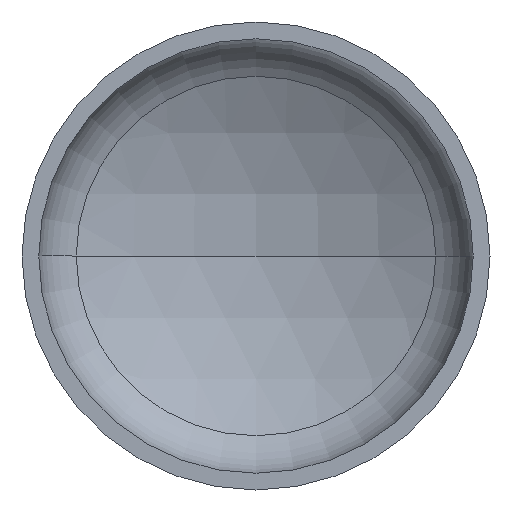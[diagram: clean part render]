
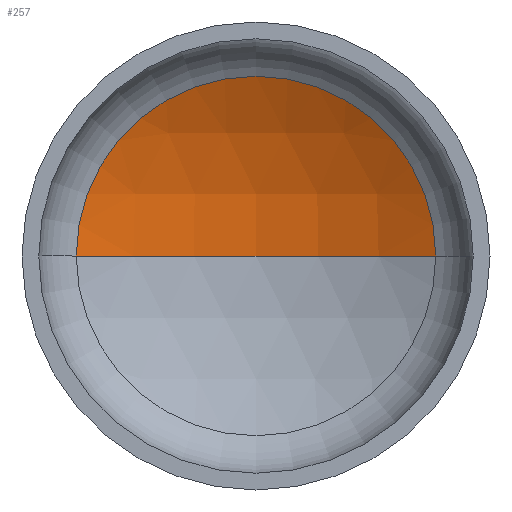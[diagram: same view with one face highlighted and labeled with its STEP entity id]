
A CAD part, front view. The second image highlights one B-rep face of the part: STEP entity #257.
In plain terms, the highlighted spherical face has radius 960 mm.
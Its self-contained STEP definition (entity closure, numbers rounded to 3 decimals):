
#1 = DIRECTION ( 'NONE',  ( 0., 0., -1. ) ) ;
#5 = DIRECTION ( 'NONE',  ( 0., 0., 1. ) ) ;
#8 = CARTESIAN_POINT ( 'NONE',  ( 0., -549.883, 0. ) ) ;
#15 = VERTEX_POINT ( 'NONE', #291 ) ;
#21 = AXIS2_PLACEMENT_3D ( 'NONE', #65, #43, #190 ) ;
#27 = EDGE_LOOP ( 'NONE', ( #109, #103, #53 ) ) ;
#40 = AXIS2_PLACEMENT_3D ( 'NONE', #8, #5, #369 ) ;
#41 = AXIS2_PLACEMENT_3D ( 'NONE', #373, #1, #108 ) ;
#42 = AXIS2_PLACEMENT_3D ( 'NONE', #194, #195, #198 ) ;
#43 = DIRECTION ( 'NONE',  ( 0., 0., -1. ) ) ;
#44 = VERTEX_POINT ( 'NONE', #286 ) ;
#48 = VERTEX_POINT ( 'NONE', #228 ) ;
#53 = ORIENTED_EDGE ( 'NONE', *, *, #85, .T. ) ;
#65 = CARTESIAN_POINT ( 'NONE',  ( 0., -549.883, 0. ) ) ;
#85 = EDGE_CURVE ( 'NONE', #15, #48, #401, .T. ) ;
#87 = EDGE_CURVE ( 'NONE', #44, #15, #339, .T. ) ;
#90 = EDGE_CURVE ( 'NONE', #44, #48, #212, .T. ) ;
#103 = ORIENTED_EDGE ( 'NONE', *, *, #87, .T. ) ;
#108 = DIRECTION ( 'NONE',  ( -1., 0., 0. ) ) ;
#109 = ORIENTED_EDGE ( 'NONE', *, *, #90, .F. ) ;
#190 = DIRECTION ( 'NONE',  ( -1., 0., 0. ) ) ;
#194 = CARTESIAN_POINT ( 'NONE',  ( 0., 292.295, 0. ) ) ;
#195 = DIRECTION ( 'NONE',  ( 0., -1., 0. ) ) ;
#198 = DIRECTION ( 'NONE',  ( 1., 0., 0. ) ) ;
#212 = CIRCLE ( 'NONE', #40, 960. ) ;
#228 = CARTESIAN_POINT ( 'NONE',  ( -460.8, 292.295, 0. ) ) ;
#257 = ADVANCED_FACE ( 'NONE', ( #320 ), #312, .F. ) ;
#286 = CARTESIAN_POINT ( 'NONE',  ( 0., 410.117, 0. ) ) ;
#291 = CARTESIAN_POINT ( 'NONE',  ( 460.8, 292.295, 0. ) ) ;
#312 = SPHERICAL_SURFACE ( 'NONE', #21, 960. ) ;
#320 = FACE_OUTER_BOUND ( 'NONE', #27, .T. ) ;
#339 = CIRCLE ( 'NONE', #41, 960. ) ;
#369 = DIRECTION ( 'NONE',  ( 1., 0., 0. ) ) ;
#373 = CARTESIAN_POINT ( 'NONE',  ( 0., -549.883, 0. ) ) ;
#401 = CIRCLE ( 'NONE', #42, 460.8 ) ;
